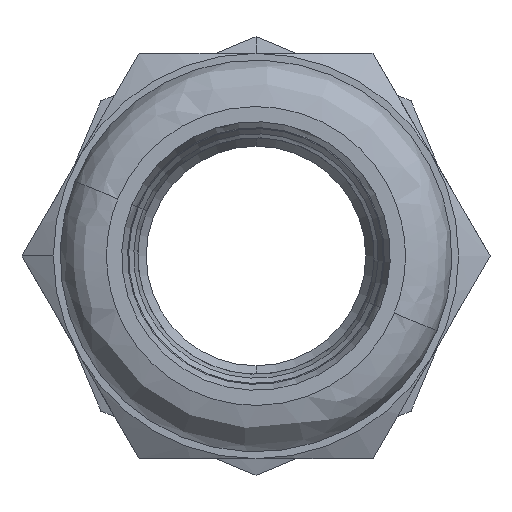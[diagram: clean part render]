
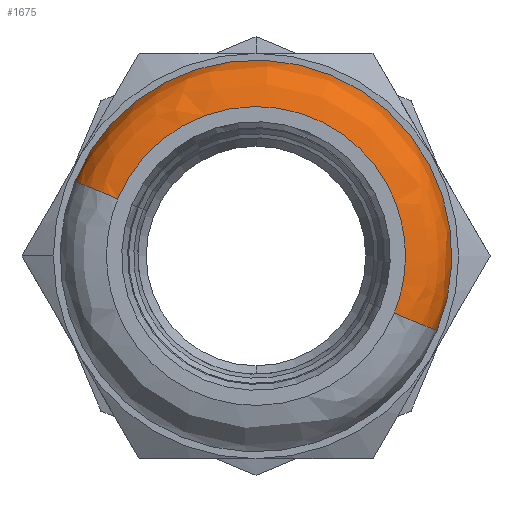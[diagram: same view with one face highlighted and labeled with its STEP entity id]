
A CAD part, left-side view. The second image highlights one B-rep face of the part: STEP entity #1675.
In plain terms, the highlighted free-form (B-spline) face has degree [3, 3] with [4, 4] control points.
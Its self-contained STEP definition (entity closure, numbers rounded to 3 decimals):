
#127 = AXIS2_PLACEMENT_3D ( 'NONE', #4631, #2548, #1717 ) ;
#160 = CARTESIAN_POINT ( 'NONE',  ( 28., -17.7, 8.85 ) ) ;
#319 =( BOUNDED_SURFACE ( )  B_SPLINE_SURFACE ( 3, 3, ( 
 ( #5201, #3184, #3556, #1103 ),
 ( #3947, #1471, #1937, #2296 ),
 ( #4748, #4817, #720, #1924 ),
 ( #4310, #2721, #645, #1899 ) ),
 .UNSPECIFIED., .F., .F., .T. ) 
 B_SPLINE_SURFACE_WITH_KNOTS ( ( 4, 4 ),
 ( 4, 4 ),
 ( 0., 1. ),
 ( 0., 1. ),
 .UNSPECIFIED. ) 
 GEOMETRIC_REPRESENTATION_ITEM ( )  RATIONAL_B_SPLINE_SURFACE ( (
 ( 1., 0.333, 0.333, 1.),
 ( 0.805, 0.268, 0.268, 0.805),
 ( 0.805, 0.268, 0.268, 0.805),
 ( 1., 0.333, 0.333, 1.) ) ) 
 REPRESENTATION_ITEM ( '' )  SURFACE ( )  );
#342 = AXIS2_PLACEMENT_3D ( 'NONE', #4946, #2504, #2924 ) ;
#385 = CARTESIAN_POINT ( 'NONE',  ( 25.25, 0., -11.6 ) ) ;
#614 = CARTESIAN_POINT ( 'NONE',  ( 28., 0., 8.85 ) ) ;
#645 = CARTESIAN_POINT ( 'NONE',  ( 28., -17.7, 8.85 ) ) ;
#720 = CARTESIAN_POINT ( 'NONE',  ( 28., -20.922, 10.461 ) ) ;
#979 = CARTESIAN_POINT ( 'NONE',  ( 28., -17.7, -8.85 ) ) ;
#1103 = CARTESIAN_POINT ( 'NONE',  ( 25.25, 0., 11.6 ) ) ;
#1287 = VERTEX_POINT ( 'NONE', #5065 ) ;
#1351 = CIRCLE ( 'NONE', #127, 2.75 ) ;
#1471 = CARTESIAN_POINT ( 'NONE',  ( 26.861, -23.2, -11.6 ) ) ;
#1484 = CARTESIAN_POINT ( 'NONE',  ( 28., 0., -8.85 ) ) ;
#1585 =( BOUNDED_CURVE ( )  B_SPLINE_CURVE ( 3, ( #4639, #979, #160, #614 ),
 .UNSPECIFIED., .F., .T. ) 
 B_SPLINE_CURVE_WITH_KNOTS ( ( 4, 4 ),
 ( 0., 1. ),
 .UNSPECIFIED. ) 
 CURVE ( )  GEOMETRIC_REPRESENTATION_ITEM ( )  RATIONAL_B_SPLINE_CURVE ( ( 1., 0.333, 0.333, 1. ) ) 
 REPRESENTATION_ITEM ( '' )  );
#1605 = CIRCLE ( 'NONE', #3256, 2.75 ) ;
#1675 = ADVANCED_FACE ( 'NONE', ( #4239 ), #319, .T. ) ;
#1717 = DIRECTION ( 'NONE',  ( 0., 0., 1. ) ) ;
#1830 = VERTEX_POINT ( 'NONE', #385 ) ;
#1899 = CARTESIAN_POINT ( 'NONE',  ( 28., 0., 8.85 ) ) ;
#1924 = CARTESIAN_POINT ( 'NONE',  ( 28., 0., 10.461 ) ) ;
#1937 = CARTESIAN_POINT ( 'NONE',  ( 26.861, -23.2, 11.6 ) ) ;
#1990 = VERTEX_POINT ( 'NONE', #1484 ) ;
#2076 = ORIENTED_EDGE ( 'NONE', *, *, #2330, .F. ) ;
#2296 = CARTESIAN_POINT ( 'NONE',  ( 26.861, 0., 11.6 ) ) ;
#2330 = EDGE_CURVE ( 'NONE', #1830, #1287, #3298, .T. ) ;
#2504 = DIRECTION ( 'NONE',  ( -1., 0., 0. ) ) ;
#2548 = DIRECTION ( 'NONE',  ( 0., 1., 0. ) ) ;
#2552 = ORIENTED_EDGE ( 'NONE', *, *, #3967, .T. ) ;
#2721 = CARTESIAN_POINT ( 'NONE',  ( 28., -17.7, -8.85 ) ) ;
#2774 = EDGE_LOOP ( 'NONE', ( #2076, #5046, #2552, #4087 ) ) ;
#2776 = CARTESIAN_POINT ( 'NONE',  ( 25.25, 0., -8.85 ) ) ;
#2924 = DIRECTION ( 'NONE',  ( 0., 0., 1. ) ) ;
#3184 = CARTESIAN_POINT ( 'NONE',  ( 25.25, -23.2, -11.6 ) ) ;
#3185 = DIRECTION ( 'NONE',  ( 0., 0., -1. ) ) ;
#3255 = DIRECTION ( 'NONE',  ( 0., -1., 0. ) ) ;
#3256 = AXIS2_PLACEMENT_3D ( 'NONE', #2776, #3255, #3185 ) ;
#3298 = CIRCLE ( 'NONE', #342, 11.6 ) ;
#3556 = CARTESIAN_POINT ( 'NONE',  ( 25.25, -23.2, 11.6 ) ) ;
#3778 = VERTEX_POINT ( 'NONE', #5234 ) ;
#3947 = CARTESIAN_POINT ( 'NONE',  ( 26.861, 0., -11.6 ) ) ;
#3967 = EDGE_CURVE ( 'NONE', #1990, #3778, #1585, .T. ) ;
#4087 = ORIENTED_EDGE ( 'NONE', *, *, #5075, .F. ) ;
#4239 = FACE_OUTER_BOUND ( 'NONE', #2774, .T. ) ;
#4310 = CARTESIAN_POINT ( 'NONE',  ( 28., 0., -8.85 ) ) ;
#4631 = CARTESIAN_POINT ( 'NONE',  ( 25.25, 0., 8.85 ) ) ;
#4639 = CARTESIAN_POINT ( 'NONE',  ( 28., 0., -8.85 ) ) ;
#4748 = CARTESIAN_POINT ( 'NONE',  ( 28., 0., -10.461 ) ) ;
#4817 = CARTESIAN_POINT ( 'NONE',  ( 28., -20.922, -10.461 ) ) ;
#4946 = CARTESIAN_POINT ( 'NONE',  ( 25.25, 0., 0. ) ) ;
#5046 = ORIENTED_EDGE ( 'NONE', *, *, #5049, .T. ) ;
#5049 = EDGE_CURVE ( 'NONE', #1830, #1990, #1605, .T. ) ;
#5065 = CARTESIAN_POINT ( 'NONE',  ( 25.25, 0., 11.6 ) ) ;
#5075 = EDGE_CURVE ( 'NONE', #1287, #3778, #1351, .T. ) ;
#5201 = CARTESIAN_POINT ( 'NONE',  ( 25.25, 0., -11.6 ) ) ;
#5234 = CARTESIAN_POINT ( 'NONE',  ( 28., 0., 8.85 ) ) ;
